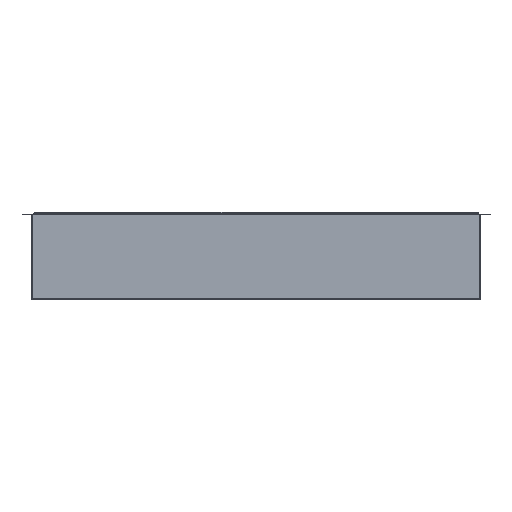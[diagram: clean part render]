
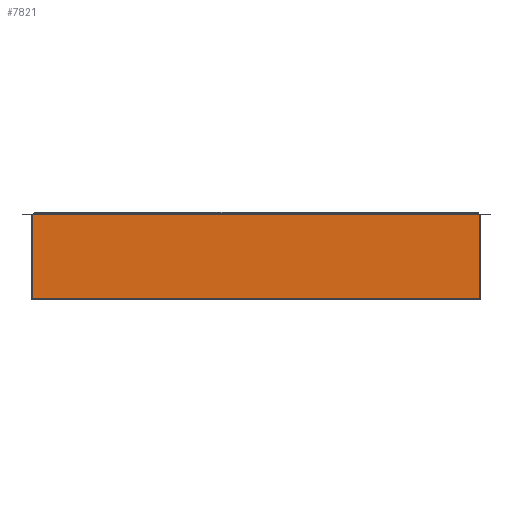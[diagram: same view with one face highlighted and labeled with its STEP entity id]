
A CAD part, front view. The second image highlights one B-rep face of the part: STEP entity #7821.
In plain terms, the highlighted planar face has unit normal (0, -1, 0) as drawn and (0, 0, -1) by its records, which use the part's own axes.
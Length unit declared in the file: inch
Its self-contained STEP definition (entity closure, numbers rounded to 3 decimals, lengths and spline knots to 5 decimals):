
#366 = VECTOR ( 'NONE', #5954, 39.37008 ) ;
#608 = CARTESIAN_POINT ( 'NONE',  ( 84.81591, 30.57935, 0. ) ) ;
#912 = CARTESIAN_POINT ( 'NONE',  ( 84.82796, -12.34731, 0. ) ) ;
#1068 = ORIENTED_EDGE ( 'NONE', *, *, #5673, .F. ) ;
#1075 = AXIS2_PLACEMENT_3D ( 'NONE', #11782, #5631, #12820 ) ;
#1202 = DIRECTION ( 'NONE',  ( -1., 0., 0. ) ) ;
#1504 = VECTOR ( 'NONE', #8117, 39.37008 ) ;
#1606 = FACE_OUTER_BOUND ( 'NONE', #12035, .T. ) ;
#1846 = VECTOR ( 'NONE', #8121, 39.37008 ) ;
#1876 = VERTEX_POINT ( 'NONE', #8383 ) ;
#1883 = VERTEX_POINT ( 'NONE', #2240 ) ;
#2024 = ORIENTED_EDGE ( 'NONE', *, *, #4356, .F. ) ;
#2131 = VECTOR ( 'NONE', #8500, 39.37008 ) ;
#2240 = CARTESIAN_POINT ( 'NONE',  ( 84.82796, -11.26114, 0. ) ) ;
#2431 = DIRECTION ( 'NONE',  ( 1., 0., 0. ) ) ;
#2464 = VECTOR ( 'NONE', #2431, 39.37008 ) ;
#2472 = VERTEX_POINT ( 'NONE', #3409 ) ;
#2597 = CARTESIAN_POINT ( 'NONE',  ( 92.69839, -11.18879, 0. ) ) ;
#2841 = DIRECTION ( 'NONE',  ( 0., -1., 0. ) ) ;
#2874 = CARTESIAN_POINT ( 'NONE',  ( 84.82796, 30.57935, 0. ) ) ;
#3042 = LINE ( 'NONE', #2597, #8518 ) ;
#3409 = CARTESIAN_POINT ( 'NONE',  ( 84.81591, 30.57935, 0. ) ) ;
#3470 = CARTESIAN_POINT ( 'NONE',  ( 83.69856, -11.18879, 0. ) ) ;
#3613 = CARTESIAN_POINT ( 'NONE',  ( 92.69839, 30.6517, 0. ) ) ;
#3691 = VERTEX_POINT ( 'NONE', #5947 ) ;
#3922 = LINE ( 'NONE', #912, #1504 ) ;
#4072 = DIRECTION ( 'NONE',  ( 0., 1., 0. ) ) ;
#4186 = LINE ( 'NONE', #5359, #9008 ) ;
#4194 = ORIENTED_EDGE ( 'NONE', *, *, #7704, .F. ) ;
#4356 = EDGE_CURVE ( 'NONE', #1876, #10535, #10727, .T. ) ;
#4636 = CARTESIAN_POINT ( 'NONE',  ( 92.69839, 30.57935, 0. ) ) ;
#4877 = LINE ( 'NONE', #12590, #2131 ) ;
#5263 = VECTOR ( 'NONE', #2841, 39.37008 ) ;
#5300 = VECTOR ( 'NONE', #7798, 39.37008 ) ;
#5359 = CARTESIAN_POINT ( 'NONE',  ( 84.82796, 30.57935, 0. ) ) ;
#5370 = ORIENTED_EDGE ( 'NONE', *, *, #7975, .F. ) ;
#5631 = DIRECTION ( 'NONE',  ( 0., 0., -1. ) ) ;
#5673 = EDGE_CURVE ( 'NONE', #8554, #7929, #10045, .T. ) ;
#5704 = VECTOR ( 'NONE', #7409, 39.37008 ) ;
#5947 = CARTESIAN_POINT ( 'NONE',  ( 92.69839, -11.18879, 0. ) ) ;
#5954 = DIRECTION ( 'NONE',  ( -1., 0., 0. ) ) ;
#6041 = ORIENTED_EDGE ( 'NONE', *, *, #12243, .T. ) ;
#6394 = VERTEX_POINT ( 'NONE', #10498 ) ;
#6621 = EDGE_CURVE ( 'NONE', #12240, #6394, #7913, .T. ) ;
#6637 = CARTESIAN_POINT ( 'NONE',  ( 92.71154, 30.57935, 0. ) ) ;
#6669 = LINE ( 'NONE', #10385, #9075 ) ;
#7178 = CARTESIAN_POINT ( 'NONE',  ( 92.69839, -11.26114, 0. ) ) ;
#7409 = DIRECTION ( 'NONE',  ( 0., -1., 0. ) ) ;
#7464 = ORIENTED_EDGE ( 'NONE', *, *, #11237, .F. ) ;
#7637 = PLANE ( 'NONE',  #1075 ) ;
#7704 = EDGE_CURVE ( 'NONE', #10535, #2472, #4186, .T. ) ;
#7798 = DIRECTION ( 'NONE',  ( 0., -1., 0. ) ) ;
#7821 = ADVANCED_FACE ( 'NONE', ( #1606 ), #7637, .T. ) ;
#7905 = VERTEX_POINT ( 'NONE', #3613 ) ;
#7913 = LINE ( 'NONE', #3470, #2464 ) ;
#7929 = VERTEX_POINT ( 'NONE', #4636 ) ;
#7945 = CARTESIAN_POINT ( 'NONE',  ( 84.82796, 31.73787, 0. ) ) ;
#7975 = EDGE_CURVE ( 'NONE', #2472, #12240, #10766, .T. ) ;
#8117 = DIRECTION ( 'NONE',  ( 0., -1., 0. ) ) ;
#8121 = DIRECTION ( 'NONE',  ( -1., 0., 0. ) ) ;
#8212 = EDGE_CURVE ( 'NONE', #7929, #7905, #12523, .T. ) ;
#8360 = DIRECTION ( 'NONE',  ( 0., 1., 0. ) ) ;
#8383 = CARTESIAN_POINT ( 'NONE',  ( 84.82796, 30.6517, 0. ) ) ;
#8500 = DIRECTION ( 'NONE',  ( -1., 0., 0. ) ) ;
#8518 = VECTOR ( 'NONE', #9786, 39.37008 ) ;
#8554 = VERTEX_POINT ( 'NONE', #6637 ) ;
#8575 = EDGE_CURVE ( 'NONE', #3691, #12690, #3042, .T. ) ;
#9008 = VECTOR ( 'NONE', #1202, 39.37008 ) ;
#9075 = VECTOR ( 'NONE', #8360, 39.37008 ) ;
#9202 = CARTESIAN_POINT ( 'NONE',  ( 92.69839, 31.73787, 0. ) ) ;
#9485 = VECTOR ( 'NONE', #4072, 39.37008 ) ;
#9586 = ORIENTED_EDGE ( 'NONE', *, *, #11470, .F. ) ;
#9786 = DIRECTION ( 'NONE',  ( 1., 0., 0. ) ) ;
#9794 = ORIENTED_EDGE ( 'NONE', *, *, #6621, .F. ) ;
#10045 = LINE ( 'NONE', #13240, #1846 ) ;
#10236 = ORIENTED_EDGE ( 'NONE', *, *, #8212, .F. ) ;
#10237 = CARTESIAN_POINT ( 'NONE',  ( 92.71154, -11.18879, 0. ) ) ;
#10385 = CARTESIAN_POINT ( 'NONE',  ( 92.69839, -12.34731, 0. ) ) ;
#10498 = CARTESIAN_POINT ( 'NONE',  ( 84.82796, -11.18879, 0. ) ) ;
#10519 = CARTESIAN_POINT ( 'NONE',  ( 84.81591, -11.18879, 0. ) ) ;
#10535 = VERTEX_POINT ( 'NONE', #2874 ) ;
#10727 = LINE ( 'NONE', #7945, #5263 ) ;
#10766 = LINE ( 'NONE', #608, #5300 ) ;
#11096 = ORIENTED_EDGE ( 'NONE', *, *, #8575, .F. ) ;
#11153 = LINE ( 'NONE', #12544, #5704 ) ;
#11237 = EDGE_CURVE ( 'NONE', #7905, #1876, #11317, .T. ) ;
#11317 = LINE ( 'NONE', #13132, #366 ) ;
#11470 = EDGE_CURVE ( 'NONE', #12697, #3691, #6669, .T. ) ;
#11515 = EDGE_CURVE ( 'NONE', #8554, #12690, #11153, .T. ) ;
#11782 = CARTESIAN_POINT ( 'NONE',  ( 92.69839, 30.57935, 0. ) ) ;
#11945 = EDGE_CURVE ( 'NONE', #6394, #1883, #3922, .T. ) ;
#12035 = EDGE_LOOP ( 'NONE', ( #5370, #4194, #2024, #7464, #10236, #1068, #12908, #11096, #9586, #6041, #12909, #9794 ) ) ;
#12240 = VERTEX_POINT ( 'NONE', #10519 ) ;
#12243 = EDGE_CURVE ( 'NONE', #12697, #1883, #4877, .T. ) ;
#12523 = LINE ( 'NONE', #9202, #9485 ) ;
#12544 = CARTESIAN_POINT ( 'NONE',  ( 92.71154, 30.57935, 0. ) ) ;
#12590 = CARTESIAN_POINT ( 'NONE',  ( 92.69839, -11.26114, 0. ) ) ;
#12690 = VERTEX_POINT ( 'NONE', #10237 ) ;
#12697 = VERTEX_POINT ( 'NONE', #7178 ) ;
#12820 = DIRECTION ( 'NONE',  ( -1., 0., 0. ) ) ;
#12908 = ORIENTED_EDGE ( 'NONE', *, *, #11515, .T. ) ;
#12909 = ORIENTED_EDGE ( 'NONE', *, *, #11945, .F. ) ;
#13132 = CARTESIAN_POINT ( 'NONE',  ( 92.69839, 30.6517, 0. ) ) ;
#13240 = CARTESIAN_POINT ( 'NONE',  ( 93.47964, 30.57935, 0. ) ) ;
